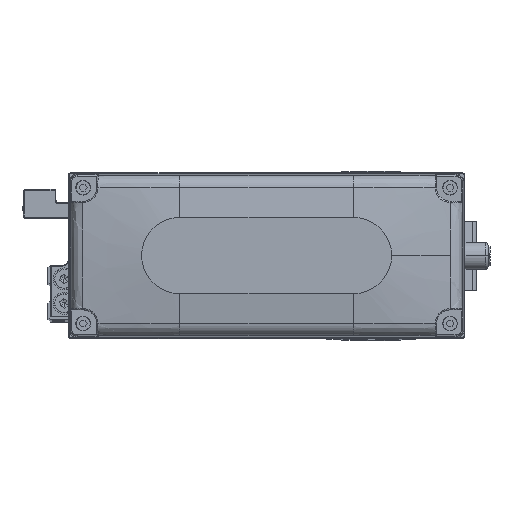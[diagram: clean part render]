
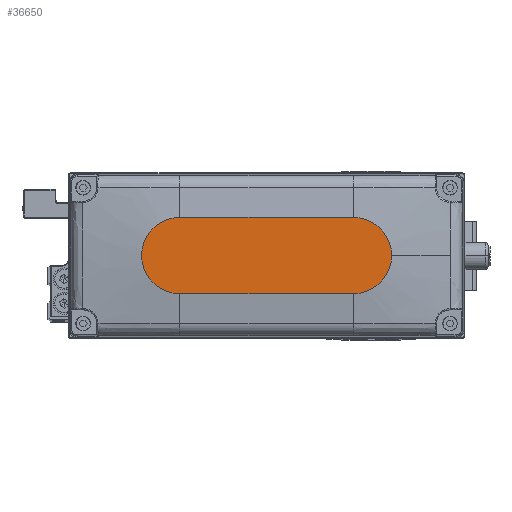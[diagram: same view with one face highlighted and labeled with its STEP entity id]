
A CAD part, top view. The second image highlights one B-rep face of the part: STEP entity #36650.
In plain terms, the highlighted planar face has unit normal (0, 0, 1).
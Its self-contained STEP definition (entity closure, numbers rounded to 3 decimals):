
#3305 = AXIS2_PLACEMENT_3D ( 'NONE', #30461, #44483, #12985 ) ;
#4266 = CARTESIAN_POINT ( 'NONE',  ( 32., -14., 35. ) ) ;
#4683 = CARTESIAN_POINT ( 'NONE',  ( -32., 14., 35. ) ) ;
#5095 = VECTOR ( 'NONE', #18730, 1000. ) ;
#5562 = VERTEX_POINT ( 'NONE', #4266 ) ;
#5865 = DIRECTION ( 'NONE',  ( 0., 0., 1. ) ) ;
#7742 = DIRECTION ( 'NONE',  ( 0., 0., 1. ) ) ;
#8265 = VERTEX_POINT ( 'NONE', #22367 ) ;
#8590 = ORIENTED_EDGE ( 'NONE', *, *, #32132, .T. ) ;
#9176 = AXIS2_PLACEMENT_3D ( 'NONE', #15110, #29147, #43159 ) ;
#11186 = ORIENTED_EDGE ( 'NONE', *, *, #11625, .T. ) ;
#11187 = FACE_OUTER_BOUND ( 'NONE', #18135, .T. ) ;
#11625 = EDGE_CURVE ( 'NONE', #8265, #43498, #43639, .T. ) ;
#11671 = LINE ( 'NONE', #25691, #33649 ) ;
#12985 = DIRECTION ( 'NONE',  ( 1., 0., 0. ) ) ;
#12986 = EDGE_CURVE ( 'NONE', #43498, #5562, #11671, .T. ) ;
#15110 = CARTESIAN_POINT ( 'NONE',  ( 32., 0., 35. ) ) ;
#18077 = ORIENTED_EDGE ( 'NONE', *, *, #28240, .T. ) ;
#18135 = EDGE_LOOP ( 'NONE', ( #25637, #11186, #23338, #8590, #18077 ) ) ;
#18730 = DIRECTION ( 'NONE',  ( -1., 0., 0. ) ) ;
#19905 = DIRECTION ( 'NONE',  ( 1., 0., 0. ) ) ;
#21778 = DIRECTION ( 'NONE',  ( 1., 0., 0. ) ) ;
#22367 = CARTESIAN_POINT ( 'NONE',  ( -32., 14., 35. ) ) ;
#22997 = CARTESIAN_POINT ( 'NONE',  ( 46., 0., 35. ) ) ;
#23153 = CIRCLE ( 'NONE', #3305, 14. ) ;
#23338 = ORIENTED_EDGE ( 'NONE', *, *, #12986, .T. ) ;
#23839 = AXIS2_PLACEMENT_3D ( 'NONE', #37381, #5865, #19905 ) ;
#25222 = PLANE ( 'NONE',  #34347 ) ;
#25452 = EDGE_CURVE ( 'NONE', #45306, #8265, #36187, .T. ) ;
#25637 = ORIENTED_EDGE ( 'NONE', *, *, #25452, .T. ) ;
#25691 = CARTESIAN_POINT ( 'NONE',  ( -32., -14., 35. ) ) ;
#28240 = EDGE_CURVE ( 'NONE', #33906, #45306, #29006, .T. ) ;
#29006 = CIRCLE ( 'NONE', #9176, 14. ) ;
#29147 = DIRECTION ( 'NONE',  ( 0., 0., 1. ) ) ;
#30461 = CARTESIAN_POINT ( 'NONE',  ( 32., 0., 35. ) ) ;
#32132 = EDGE_CURVE ( 'NONE', #5562, #33906, #23153, .T. ) ;
#33649 = VECTOR ( 'NONE', #39713, 1000. ) ;
#33906 = VERTEX_POINT ( 'NONE', #22997 ) ;
#34347 = AXIS2_PLACEMENT_3D ( 'NONE', #39242, #7742, #21778 ) ;
#36187 = LINE ( 'NONE', #4683, #5095 ) ;
#36650 = ADVANCED_FACE ( 'NONE', ( #11187 ), #25222, .T. ) ;
#37381 = CARTESIAN_POINT ( 'NONE',  ( -32., 0., 35. ) ) ;
#38619 = CARTESIAN_POINT ( 'NONE',  ( -32., -14., 35. ) ) ;
#39242 = CARTESIAN_POINT ( 'NONE',  ( 0., 0., 35. ) ) ;
#39250 = CARTESIAN_POINT ( 'NONE',  ( 32., 14., 35. ) ) ;
#39713 = DIRECTION ( 'NONE',  ( 1., 0., 0. ) ) ;
#43159 = DIRECTION ( 'NONE',  ( 1., 0., 0. ) ) ;
#43498 = VERTEX_POINT ( 'NONE', #38619 ) ;
#43639 = CIRCLE ( 'NONE', #23839, 14. ) ;
#44483 = DIRECTION ( 'NONE',  ( 0., 0., 1. ) ) ;
#45306 = VERTEX_POINT ( 'NONE', #39250 ) ;
